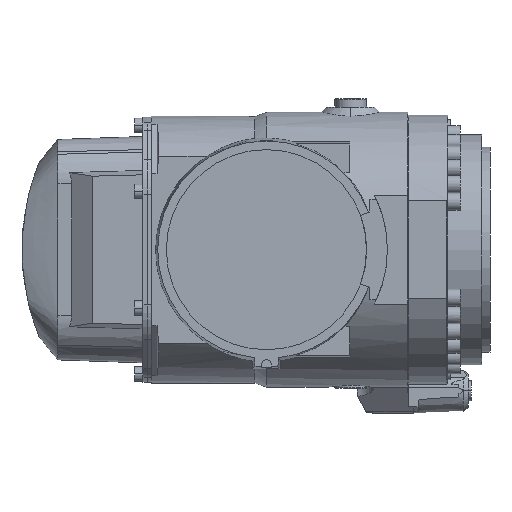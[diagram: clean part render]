
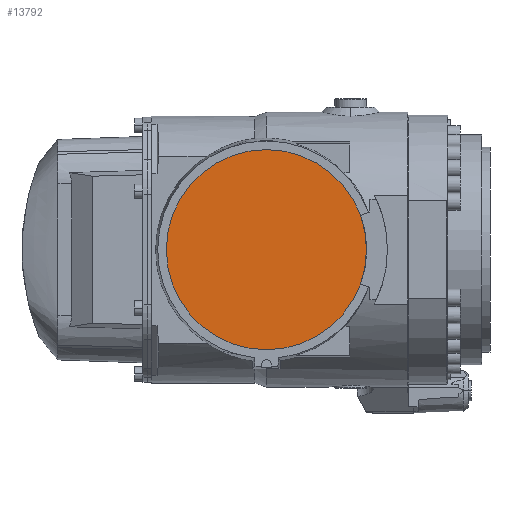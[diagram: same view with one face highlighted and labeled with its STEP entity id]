
A CAD part, front view. The second image highlights one B-rep face of the part: STEP entity #13792.
In plain terms, the highlighted planar face has unit normal (0, -1, 0).
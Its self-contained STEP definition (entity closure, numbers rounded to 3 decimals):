
#2215 = DIRECTION ( 'NONE',  ( 0., 1., 0. ) ) ;
#2981 = DIRECTION ( 'NONE',  ( -1., 0., 0. ) ) ;
#3146 = CARTESIAN_POINT ( 'NONE',  ( 1335., -76.5, 1800. ) ) ;
#4439 = DIRECTION ( 'NONE',  ( 0., 1., 0. ) ) ;
#4519 = ORIENTED_EDGE ( 'NONE', *, *, #10195, .F. ) ;
#4777 = CARTESIAN_POINT ( 'NONE',  ( 1335., -76.5, 1800. ) ) ;
#5770 = AXIS2_PLACEMENT_3D ( 'NONE', #4777, #2215, #14466 ) ;
#5968 = AXIS2_PLACEMENT_3D ( 'NONE', #15766, #13434, #13584 ) ;
#7727 = AXIS2_PLACEMENT_3D ( 'NONE', #3146, #4439, #2981 ) ;
#7899 = CARTESIAN_POINT ( 'NONE',  ( 1395., -76.5, 1800. ) ) ;
#9024 = CARTESIAN_POINT ( 'NONE',  ( 1275., -76.5, 1800. ) ) ;
#9112 = PLANE ( 'NONE',  #7727 ) ;
#9137 = VERTEX_POINT ( 'NONE', #7899 ) ;
#9399 = ORIENTED_EDGE ( 'NONE', *, *, #15256, .F. ) ;
#10195 = EDGE_CURVE ( 'NONE', #14342, #9137, #10661, .T. ) ;
#10627 = EDGE_LOOP ( 'NONE', ( #4519, #9399 ) ) ;
#10661 = CIRCLE ( 'NONE', #5770, 60. ) ;
#11697 = FACE_OUTER_BOUND ( 'NONE', #10627, .T. ) ;
#13434 = DIRECTION ( 'NONE',  ( 0., 1., 0. ) ) ;
#13584 = DIRECTION ( 'NONE',  ( -1., 0., 0. ) ) ;
#13792 = ADVANCED_FACE ( 'NONE', ( #11697 ), #9112, .F. ) ;
#14342 = VERTEX_POINT ( 'NONE', #9024 ) ;
#14466 = DIRECTION ( 'NONE',  ( -1., 0., 0. ) ) ;
#14471 = CIRCLE ( 'NONE', #5968, 60. ) ;
#15256 = EDGE_CURVE ( 'NONE', #9137, #14342, #14471, .T. ) ;
#15766 = CARTESIAN_POINT ( 'NONE',  ( 1335., -76.5, 1800. ) ) ;
